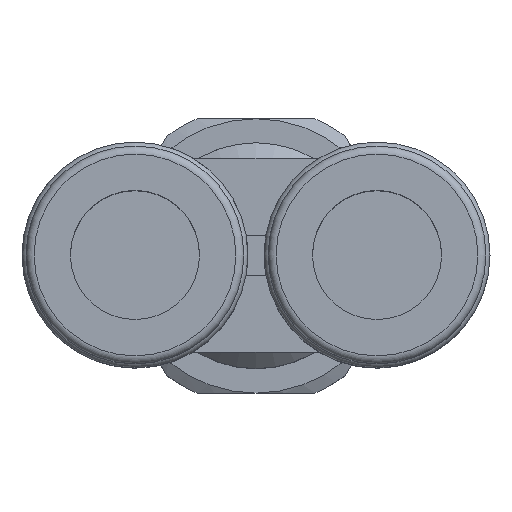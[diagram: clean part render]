
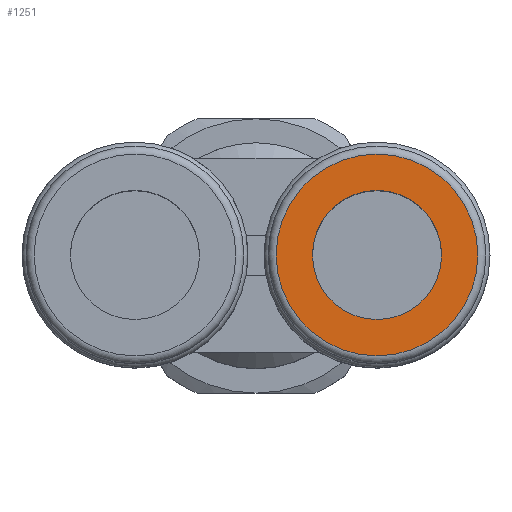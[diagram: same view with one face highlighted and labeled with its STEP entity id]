
A CAD part, top view. The second image highlights one B-rep face of the part: STEP entity #1251.
In plain terms, the highlighted planar face has unit normal (0, 0, 1).
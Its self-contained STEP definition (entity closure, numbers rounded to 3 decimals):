
#178=PLANE($,#1365);
#229=FACE_BOUND($,#364,.T.);
#230=FACE_BOUND($,#365,.T.);
#364=EDGE_LOOP($,(#896));
#365=EDGE_LOOP($,(#897));
#485=CIRCLE($,#1364,4.);
#486=CIRCLE($,#1366,6.25);
#577=VERTEX_POINT($,#2033);
#578=VERTEX_POINT($,#2036);
#701=EDGE_CURVE($,#577,#577,#485,.T.);
#702=EDGE_CURVE($,#578,#578,#486,.T.);
#896=ORIENTED_EDGE($,*,*,#701,.T.);
#897=ORIENTED_EDGE($,*,*,#702,.F.);
#1251=ADVANCED_FACE($,(#229,#230),#178,.F.);
#1364=AXIS2_PLACEMENT_3D($,#2034,#1584,#1585);
#1365=AXIS2_PLACEMENT_3D($,#2035,#1586,#1587);
#1366=AXIS2_PLACEMENT_3D($,#2037,#1588,#1589);
#1584=DIRECTION('center_axis',(0.,0.,-1.));
#1585=DIRECTION('ref_axis',(1.,0.,0.));
#1586=DIRECTION('center_axis',(0.,0.,-1.));
#1587=DIRECTION('ref_axis',(-1.,0.,0.));
#1588=DIRECTION('center_axis',(0.,0.,-1.));
#1589=DIRECTION('ref_axis',(-1.,0.,0.));
#2033=CARTESIAN_POINT('',(11.5,0.,34.4));
#2034=CARTESIAN_POINT('Origin',(7.5,0.,34.4));
#2035=CARTESIAN_POINT('Origin',(7.5,0.,34.4));
#2036=CARTESIAN_POINT('',(13.75,0.,34.4));
#2037=CARTESIAN_POINT('Origin',(7.5,0.,34.4));
